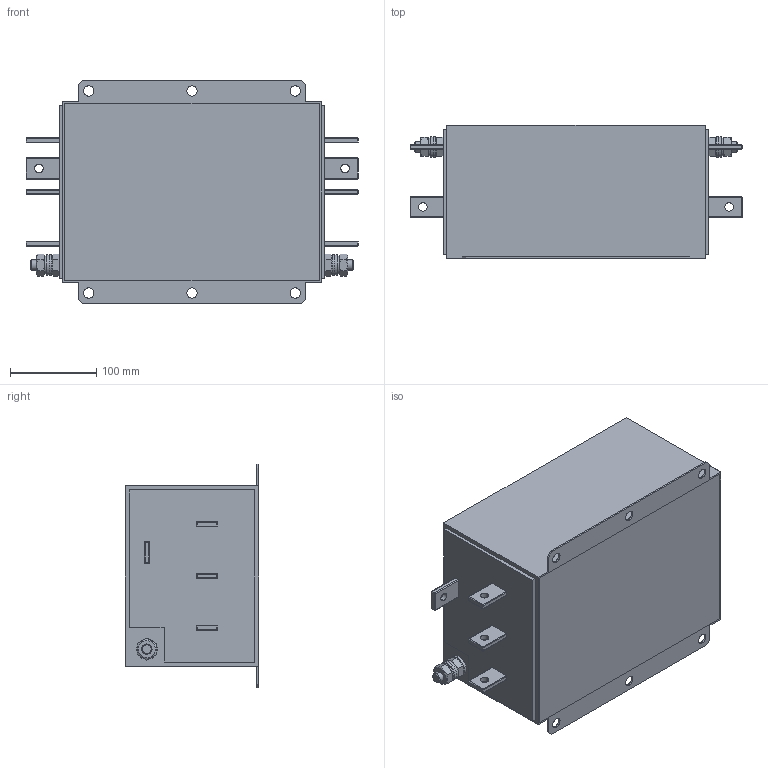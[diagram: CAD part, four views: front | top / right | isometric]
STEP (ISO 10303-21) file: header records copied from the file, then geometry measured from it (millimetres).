
FILE_DESCRIPTION (( 'STEP AP214' ), '1' );
FILE_NAME ('NF-DAR-300-4.STEP', '2019-05-17T11:46:03', ( '' ), ( '' ), 'SwSTEP 2.0', 'SolidWorks 2019', '' );
FILE_SCHEMA (( 'AUTOMOTIVE_DESIGN' ));
Length unit declared in the file: millimetre
Products named in the file (11): NF-DAR-300-4_Oberteil; Copper_Bar; schraube_iso_4018-m12x40-3_6; mutter_din_6915_m12; NF-DAR-300-4_Unterteil; din_6902-a_m12-200hv; NF-DAR-300-4; pn08320148-01
Assembly tree (20 placements, depth 2):
  NF-DAR-300-4
    NF-DAR-300-4_Oberteil
    NF-DAR-300-4_Unterteil
    Copper_Bar
    Copper_Bar
    Copper_Bar
    Copper_Bar
    schraube_iso_4018-m12x40-3_6  x2
    din_6902-a_m12-200hv  x6
    pn08320148-01  x2
    mutter_din_6915_m12  x4
Bounding box: 386 x 155 x 260 mm (x, y, z)
Volume: 1064988.2 mm3; surface area: 717639.4 mm2
Topology: 20 solids, 20 shells, 401 faces, 960 edges, 576 vertices
Faces by surface type: plane 185, cylinder 132, cone 44, sphere 32, torus 8
Entity records: 8902 total; most frequent: CARTESIAN_POINT 1559, DIRECTION 1464, ORIENTED_EDGE 1320, EDGE_CURVE 660, AXIS2_PLACEMENT_3D 521, LINE 422, VECTOR 422, VERTEX_POINT 404
